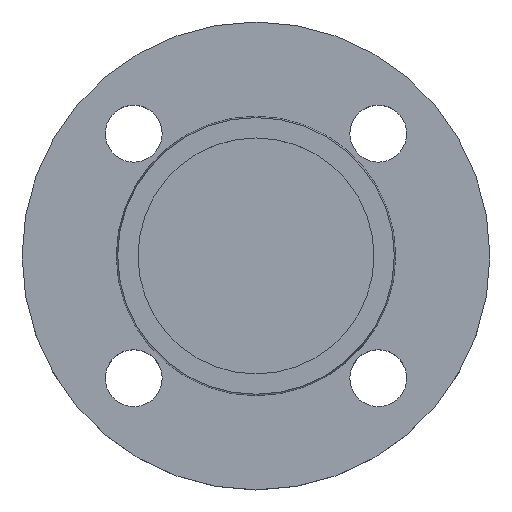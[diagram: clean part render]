
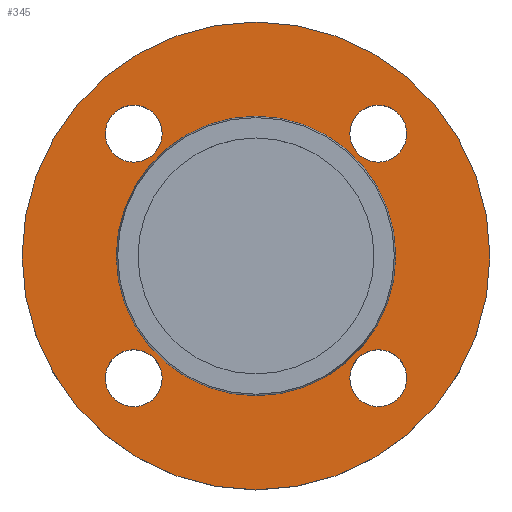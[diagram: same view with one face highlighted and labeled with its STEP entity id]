
A CAD part, top view. The second image highlights one B-rep face of the part: STEP entity #345.
In plain terms, the highlighted planar face has unit normal (0, 0, 1).
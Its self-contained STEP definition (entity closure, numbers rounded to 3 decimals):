
#10 = CIRCLE ( 'NONE', #100, 57.5 ) ;
#11 = CIRCLE ( 'NONE', #107, 34.353 ) ;
#22 = CIRCLE ( 'NONE', #352, 7. ) ;
#37 = CIRCLE ( 'NONE', #261, 7. ) ;
#39 = CIRCLE ( 'NONE', #42, 7. ) ;
#42 = AXIS2_PLACEMENT_3D ( 'NONE', #682, #684, #686 ) ;
#56 = DIRECTION ( 'NONE',  ( 1., 0., 0. ) ) ;
#57 = DIRECTION ( 'NONE',  ( -1., 0., 0. ) ) ;
#64 = EDGE_CURVE ( 'NONE', #536, #564, #22, .T. ) ;
#67 = DIRECTION ( 'NONE',  ( 0., 0., -1. ) ) ;
#73 = DIRECTION ( 'NONE',  ( 0., 0., -1. ) ) ;
#75 = CARTESIAN_POINT ( 'NONE',  ( 0., 0., -2. ) ) ;
#77 = CARTESIAN_POINT ( 'NONE',  ( 30.052, -30.052, -2. ) ) ;
#100 = AXIS2_PLACEMENT_3D ( 'NONE', #707, #708, #709 ) ;
#102 = CARTESIAN_POINT ( 'NONE',  ( 23.052, 30.052, -2. ) ) ;
#103 = CARTESIAN_POINT ( 'NONE',  ( 23.052, -30.052, -2. ) ) ;
#107 = AXIS2_PLACEMENT_3D ( 'NONE', #282, #283, #284 ) ;
#108 = DIRECTION ( 'NONE',  ( 0., 0., -1. ) ) ;
#115 = DIRECTION ( 'NONE',  ( 1., 0., 0. ) ) ;
#117 = CARTESIAN_POINT ( 'NONE',  ( -30.052, 30.052, -2. ) ) ;
#119 = CARTESIAN_POINT ( 'NONE',  ( -57.5, 0., -2. ) ) ;
#121 = DIRECTION ( 'NONE',  ( 0., 0., -1. ) ) ;
#122 = CARTESIAN_POINT ( 'NONE',  ( -23.052, -30.052, -2. ) ) ;
#124 = CARTESIAN_POINT ( 'NONE',  ( -30.052, -30.052, -2. ) ) ;
#127 = DIRECTION ( 'NONE',  ( 1., 0., 0. ) ) ;
#131 = DIRECTION ( 'NONE',  ( -1., 0., 0. ) ) ;
#143 = CARTESIAN_POINT ( 'NONE',  ( 37.052, 30.052, -2. ) ) ;
#144 = EDGE_CURVE ( 'NONE', #458, #355, #37, .T. ) ;
#145 = CARTESIAN_POINT ( 'NONE',  ( 57.5, 0., -2. ) ) ;
#158 = CIRCLE ( 'NONE', #521, 7. ) ;
#163 = AXIS2_PLACEMENT_3D ( 'NONE', #75, #67, #57 ) ;
#169 = CARTESIAN_POINT ( 'NONE',  ( 0., 0., -2. ) ) ;
#191 = AXIS2_PLACEMENT_3D ( 'NONE', #276, #278, #280 ) ;
#192 = EDGE_CURVE ( 'NONE', #562, #454, #39, .T. ) ;
#197 = CARTESIAN_POINT ( 'NONE',  ( 30.052, 30.052, -2. ) ) ;
#198 = DIRECTION ( 'NONE',  ( 0., 0., -1. ) ) ;
#199 = DIRECTION ( 'NONE',  ( 1., 0., 0. ) ) ;
#229 = EDGE_CURVE ( 'NONE', #528, #426, #10, .T. ) ;
#236 = CIRCLE ( 'NONE', #341, 34.353 ) ;
#238 = FACE_BOUND ( 'NONE', #541, .T. ) ;
#239 = FACE_BOUND ( 'NONE', #551, .T. ) ;
#240 = FACE_BOUND ( 'NONE', #455, .T. ) ;
#242 = FACE_BOUND ( 'NONE', #550, .T. ) ;
#244 = FACE_BOUND ( 'NONE', #450, .T. ) ;
#250 = CIRCLE ( 'NONE', #374, 7. ) ;
#258 = AXIS2_PLACEMENT_3D ( 'NONE', #124, #108, #127 ) ;
#261 = AXIS2_PLACEMENT_3D ( 'NONE', #633, #634, #635 ) ;
#263 = EDGE_CURVE ( 'NONE', #454, #562, #158, .T. ) ;
#269 = FACE_OUTER_BOUND ( 'NONE', #487, .T. ) ;
#272 = PLANE ( 'NONE',  #191 ) ;
#274 = CIRCLE ( 'NONE', #640, 7. ) ;
#275 = CIRCLE ( 'NONE', #258, 7. ) ;
#276 = CARTESIAN_POINT ( 'NONE',  ( 34.353, 0., -2. ) ) ;
#278 = DIRECTION ( 'NONE',  ( 0., 0., 1. ) ) ;
#280 = DIRECTION ( 'NONE',  ( 1., 0., 0. ) ) ;
#282 = CARTESIAN_POINT ( 'NONE',  ( 0., 0., -2. ) ) ;
#283 = DIRECTION ( 'NONE',  ( 0., 0., -1. ) ) ;
#284 = DIRECTION ( 'NONE',  ( -1., 0., 0. ) ) ;
#285 = CARTESIAN_POINT ( 'NONE',  ( -23.052, 30.052, -2. ) ) ;
#286 = CARTESIAN_POINT ( 'NONE',  ( -37.052, -30.052, -2. ) ) ;
#294 = EDGE_CURVE ( 'NONE', #564, #536, #350, .T. ) ;
#303 = CARTESIAN_POINT ( 'NONE',  ( 34.353, 0., -2. ) ) ;
#315 = CARTESIAN_POINT ( 'NONE',  ( -30.052, 30.052, -2. ) ) ;
#316 = DIRECTION ( 'NONE',  ( 0., 0., -1. ) ) ;
#317 = DIRECTION ( 'NONE',  ( 1., 0., 0. ) ) ;
#321 = CARTESIAN_POINT ( 'NONE',  ( -37.052, 30.052, -2. ) ) ;
#322 = CARTESIAN_POINT ( 'NONE',  ( 37.052, -30.052, -2. ) ) ;
#328 = CARTESIAN_POINT ( 'NONE',  ( -34.353, 0., -2. ) ) ;
#335 = DIRECTION ( 'NONE',  ( 0., 0., -1. ) ) ;
#341 = AXIS2_PLACEMENT_3D ( 'NONE', #169, #335, #131 ) ;
#345 = ADVANCED_FACE ( 'NONE', ( #238, #239, #240, #242, #244, #269 ), #272, .T. ) ;
#349 = EDGE_CURVE ( 'NONE', #388, #363, #11, .T. ) ;
#350 = CIRCLE ( 'NONE', #464, 7. ) ;
#351 = VERTEX_POINT ( 'NONE', #285 ) ;
#352 = AXIS2_PLACEMENT_3D ( 'NONE', #587, #588, #589 ) ;
#355 = VERTEX_POINT ( 'NONE', #286 ) ;
#363 = VERTEX_POINT ( 'NONE', #303 ) ;
#374 = AXIS2_PLACEMENT_3D ( 'NONE', #117, #121, #115 ) ;
#384 = EDGE_CURVE ( 'NONE', #351, #558, #274, .T. ) ;
#388 = VERTEX_POINT ( 'NONE', #328 ) ;
#400 = EDGE_CURVE ( 'NONE', #355, #458, #275, .T. ) ;
#426 = VERTEX_POINT ( 'NONE', #119 ) ;
#429 = EDGE_CURVE ( 'NONE', #558, #351, #250, .T. ) ;
#430 = ORIENTED_EDGE ( 'NONE', *, *, #263, .T. ) ;
#431 = ORIENTED_EDGE ( 'NONE', *, *, #192, .T. ) ;
#432 = ORIENTED_EDGE ( 'NONE', *, *, #144, .T. ) ;
#433 = ORIENTED_EDGE ( 'NONE', *, *, #400, .T. ) ;
#434 = ORIENTED_EDGE ( 'NONE', *, *, #384, .T. ) ;
#435 = ORIENTED_EDGE ( 'NONE', *, *, #429, .T. ) ;
#436 = ORIENTED_EDGE ( 'NONE', *, *, #64, .T. ) ;
#437 = ORIENTED_EDGE ( 'NONE', *, *, #294, .T. ) ;
#438 = ORIENTED_EDGE ( 'NONE', *, *, #349, .T. ) ;
#439 = ORIENTED_EDGE ( 'NONE', *, *, #488, .T. ) ;
#440 = ORIENTED_EDGE ( 'NONE', *, *, #229, .F. ) ;
#441 = ORIENTED_EDGE ( 'NONE', *, *, #685, .F. ) ;
#450 = EDGE_LOOP ( 'NONE', ( #438, #439 ) ) ;
#454 = VERTEX_POINT ( 'NONE', #322 ) ;
#455 = EDGE_LOOP ( 'NONE', ( #434, #435 ) ) ;
#458 = VERTEX_POINT ( 'NONE', #122 ) ;
#464 = AXIS2_PLACEMENT_3D ( 'NONE', #197, #198, #199 ) ;
#487 = EDGE_LOOP ( 'NONE', ( #440, #441 ) ) ;
#488 = EDGE_CURVE ( 'NONE', #363, #388, #236, .T. ) ;
#521 = AXIS2_PLACEMENT_3D ( 'NONE', #77, #73, #56 ) ;
#528 = VERTEX_POINT ( 'NONE', #145 ) ;
#536 = VERTEX_POINT ( 'NONE', #143 ) ;
#537 = CIRCLE ( 'NONE', #163, 57.5 ) ;
#541 = EDGE_LOOP ( 'NONE', ( #430, #431 ) ) ;
#550 = EDGE_LOOP ( 'NONE', ( #436, #437 ) ) ;
#551 = EDGE_LOOP ( 'NONE', ( #432, #433 ) ) ;
#558 = VERTEX_POINT ( 'NONE', #321 ) ;
#562 = VERTEX_POINT ( 'NONE', #103 ) ;
#564 = VERTEX_POINT ( 'NONE', #102 ) ;
#587 = CARTESIAN_POINT ( 'NONE',  ( 30.052, 30.052, -2. ) ) ;
#588 = DIRECTION ( 'NONE',  ( 0., 0., -1. ) ) ;
#589 = DIRECTION ( 'NONE',  ( 1., 0., 0. ) ) ;
#633 = CARTESIAN_POINT ( 'NONE',  ( -30.052, -30.052, -2. ) ) ;
#634 = DIRECTION ( 'NONE',  ( 0., 0., -1. ) ) ;
#635 = DIRECTION ( 'NONE',  ( 1., 0., 0. ) ) ;
#640 = AXIS2_PLACEMENT_3D ( 'NONE', #315, #316, #317 ) ;
#682 = CARTESIAN_POINT ( 'NONE',  ( 30.052, -30.052, -2. ) ) ;
#684 = DIRECTION ( 'NONE',  ( 0., 0., -1. ) ) ;
#685 = EDGE_CURVE ( 'NONE', #426, #528, #537, .T. ) ;
#686 = DIRECTION ( 'NONE',  ( 1., 0., 0. ) ) ;
#707 = CARTESIAN_POINT ( 'NONE',  ( 0., 0., -2. ) ) ;
#708 = DIRECTION ( 'NONE',  ( 0., 0., -1. ) ) ;
#709 = DIRECTION ( 'NONE',  ( -1., 0., 0. ) ) ;
